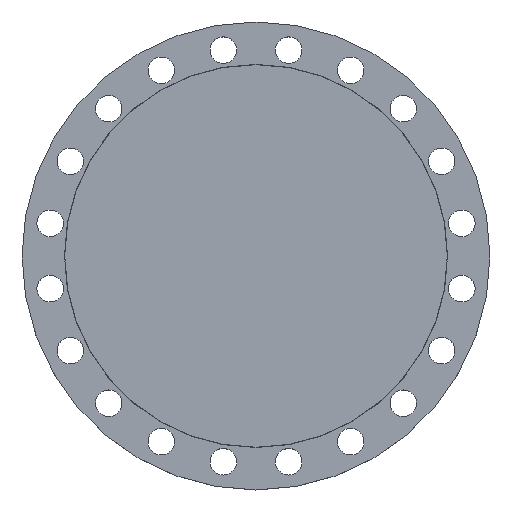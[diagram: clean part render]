
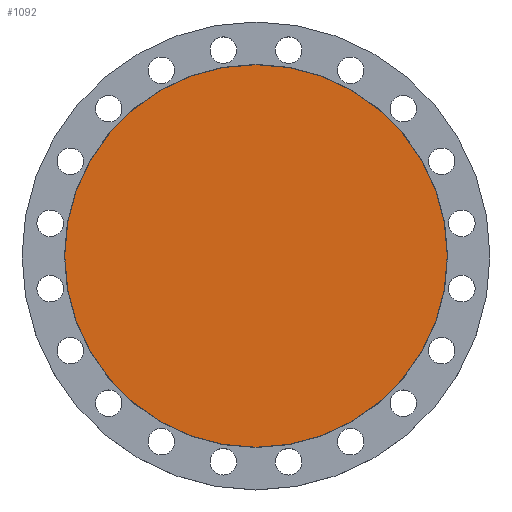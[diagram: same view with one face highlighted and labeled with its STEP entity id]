
A CAD part, top view. The second image highlights one B-rep face of the part: STEP entity #1092.
In plain terms, the highlighted planar face has unit normal (0, 0, 1).
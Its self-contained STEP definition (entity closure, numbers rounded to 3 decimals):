
#382 = EDGE_CURVE ( 'NONE', #1009, #1017, #1181, .T. ) ;
#486 = CIRCLE ( 'NONE', #811, 280. ) ;
#514 = DIRECTION ( 'NONE',  ( 1., 0., 0. ) ) ;
#515 = DIRECTION ( 'NONE',  ( 0., 0., 1. ) ) ;
#518 = CARTESIAN_POINT ( 'NONE',  ( 0., 0., 0. ) ) ;
#519 = PLANE ( 'NONE',  #1350 ) ;
#520 = FACE_OUTER_BOUND ( 'NONE', #1807, .T. ) ;
#545 = CARTESIAN_POINT ( 'NONE',  ( -280., 0., 0. ) ) ;
#547 = EDGE_CURVE ( 'NONE', #1017, #1009, #486, .T. ) ;
#552 = CARTESIAN_POINT ( 'NONE',  ( 280., 0., 0. ) ) ;
#770 = DIRECTION ( 'NONE',  ( -1., 0., 0. ) ) ;
#774 = DIRECTION ( 'NONE',  ( 0., 0., -1. ) ) ;
#775 = CARTESIAN_POINT ( 'NONE',  ( 0., 0., 0. ) ) ;
#811 = AXIS2_PLACEMENT_3D ( 'NONE', #775, #774, #770 ) ;
#840 = DIRECTION ( 'NONE',  ( -1., 0., 0. ) ) ;
#841 = DIRECTION ( 'NONE',  ( 0., 0., -1. ) ) ;
#844 = CARTESIAN_POINT ( 'NONE',  ( 0., 0., 0. ) ) ;
#1009 = VERTEX_POINT ( 'NONE', #552 ) ;
#1017 = VERTEX_POINT ( 'NONE', #545 ) ;
#1092 = ADVANCED_FACE ( 'NONE', ( #520 ), #519, .T. ) ;
#1165 = ORIENTED_EDGE ( 'NONE', *, *, #382, .F. ) ;
#1166 = ORIENTED_EDGE ( 'NONE', *, *, #547, .F. ) ;
#1181 = CIRCLE ( 'NONE', #1416, 280. ) ;
#1350 = AXIS2_PLACEMENT_3D ( 'NONE', #518, #515, #514 ) ;
#1416 = AXIS2_PLACEMENT_3D ( 'NONE', #844, #841, #840 ) ;
#1807 = EDGE_LOOP ( 'NONE', ( #1166, #1165 ) ) ;
